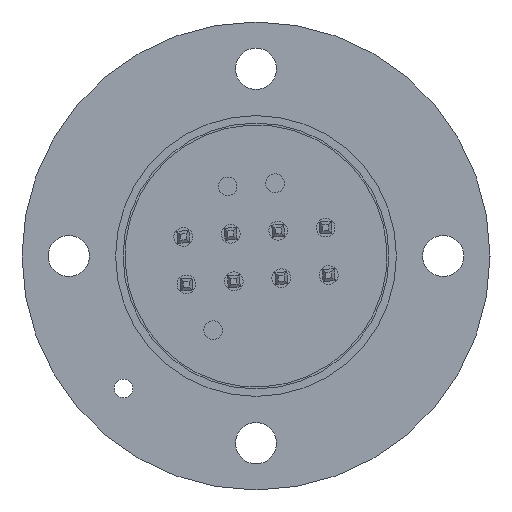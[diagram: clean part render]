
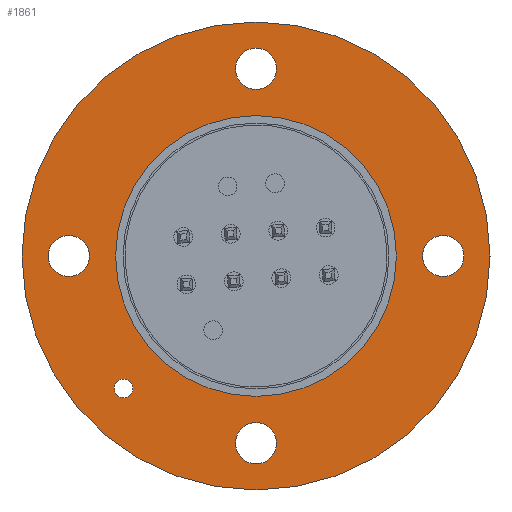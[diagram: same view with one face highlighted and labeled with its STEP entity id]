
A CAD part, left-side view. The second image highlights one B-rep face of the part: STEP entity #1861.
In plain terms, the highlighted planar face has unit normal (-1, 0, 0).
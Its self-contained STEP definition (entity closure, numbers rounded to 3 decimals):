
#452=PLANE('',#2076);
#548=FACE_BOUND('',#742,.T.);
#549=FACE_BOUND('',#743,.T.);
#550=FACE_BOUND('',#744,.T.);
#551=FACE_BOUND('',#745,.T.);
#552=FACE_BOUND('',#746,.T.);
#553=FACE_BOUND('',#747,.T.);
#613=FACE_OUTER_BOUND('',#741,.T.);
#741=EDGE_LOOP('',(#1381));
#742=EDGE_LOOP('',(#1382));
#743=EDGE_LOOP('',(#1383));
#744=EDGE_LOOP('',(#1384));
#745=EDGE_LOOP('',(#1385));
#746=EDGE_LOOP('',(#1386));
#747=EDGE_LOOP('',(#1387));
#902=CIRCLE('',#2053,0.5);
#904=CIRCLE('',#2056,1.1);
#906=CIRCLE('',#2059,1.1);
#908=CIRCLE('',#2062,1.1);
#910=CIRCLE('',#2065,1.1);
#916=CIRCLE('',#2075,12.5);
#917=CIRCLE('',#2077,7.5);
#962=VERTEX_POINT('',#2801);
#964=VERTEX_POINT('',#2806);
#966=VERTEX_POINT('',#2811);
#968=VERTEX_POINT('',#2816);
#970=VERTEX_POINT('',#2821);
#976=VERTEX_POINT('',#2837);
#977=VERTEX_POINT('',#2840);
#1126=EDGE_CURVE('',#962,#962,#902,.T.);
#1128=EDGE_CURVE('',#964,#964,#904,.T.);
#1130=EDGE_CURVE('',#966,#966,#906,.T.);
#1132=EDGE_CURVE('',#968,#968,#908,.T.);
#1134=EDGE_CURVE('',#970,#970,#910,.T.);
#1140=EDGE_CURVE('',#976,#976,#916,.T.);
#1141=EDGE_CURVE('',#977,#977,#917,.T.);
#1381=ORIENTED_EDGE('',*,*,#1140,.T.);
#1382=ORIENTED_EDGE('',*,*,#1126,.T.);
#1383=ORIENTED_EDGE('',*,*,#1128,.T.);
#1384=ORIENTED_EDGE('',*,*,#1130,.T.);
#1385=ORIENTED_EDGE('',*,*,#1132,.T.);
#1386=ORIENTED_EDGE('',*,*,#1134,.T.);
#1387=ORIENTED_EDGE('',*,*,#1141,.F.);
#1861=ADVANCED_FACE('',(#613,#548,#549,#550,#551,#552,#553),#452,.T.);
#2053=AXIS2_PLACEMENT_3D('',#2802,#2248,#2249);
#2056=AXIS2_PLACEMENT_3D('',#2807,#2254,#2255);
#2059=AXIS2_PLACEMENT_3D('',#2812,#2260,#2261);
#2062=AXIS2_PLACEMENT_3D('',#2817,#2266,#2267);
#2065=AXIS2_PLACEMENT_3D('',#2822,#2272,#2273);
#2075=AXIS2_PLACEMENT_3D('',#2838,#2292,#2293);
#2076=AXIS2_PLACEMENT_3D('',#2839,#2294,#2295);
#2077=AXIS2_PLACEMENT_3D('',#2841,#2296,#2297);
#2248=DIRECTION('center_axis',(1.,0.,0.));
#2249=DIRECTION('ref_axis',(0.,0.,-1.));
#2254=DIRECTION('center_axis',(1.,0.,0.));
#2255=DIRECTION('ref_axis',(0.,1.,0.));
#2260=DIRECTION('center_axis',(1.,0.,0.));
#2261=DIRECTION('ref_axis',(0.,0.,1.));
#2266=DIRECTION('center_axis',(1.,0.,0.));
#2267=DIRECTION('ref_axis',(0.,-1.,0.));
#2272=DIRECTION('center_axis',(1.,0.,0.));
#2273=DIRECTION('ref_axis',(0.,0.,-1.));
#2292=DIRECTION('center_axis',(-1.,0.,0.));
#2293=DIRECTION('ref_axis',(0.,0.,1.));
#2294=DIRECTION('center_axis',(-1.,0.,0.));
#2295=DIRECTION('ref_axis',(0.,0.,1.));
#2296=DIRECTION('center_axis',(-1.,0.,0.));
#2297=DIRECTION('ref_axis',(0.,0.,1.));
#2801=CARTESIAN_POINT('',(-2.,7.071,-6.571));
#2802=CARTESIAN_POINT('Origin',(-2.,7.071,-7.071));
#2806=CARTESIAN_POINT('',(-2.,-1.1,10.));
#2807=CARTESIAN_POINT('Origin',(-2.,0.,10.));
#2811=CARTESIAN_POINT('',(-2.,-10.,-1.1));
#2812=CARTESIAN_POINT('Origin',(-2.,-10.,0.));
#2816=CARTESIAN_POINT('',(-2.,1.1,-10.));
#2817=CARTESIAN_POINT('Origin',(-2.,0.,-10.));
#2821=CARTESIAN_POINT('',(-2.,10.,1.1));
#2822=CARTESIAN_POINT('Origin',(-2.,10.,0.));
#2837=CARTESIAN_POINT('',(-2.,0.,12.5));
#2838=CARTESIAN_POINT('Origin',(-2.,0.,0.));
#2839=CARTESIAN_POINT('Origin',(-2.,0.,10.));
#2840=CARTESIAN_POINT('',(-2.,0.,7.5));
#2841=CARTESIAN_POINT('Origin',(-2.,0.,0.));
